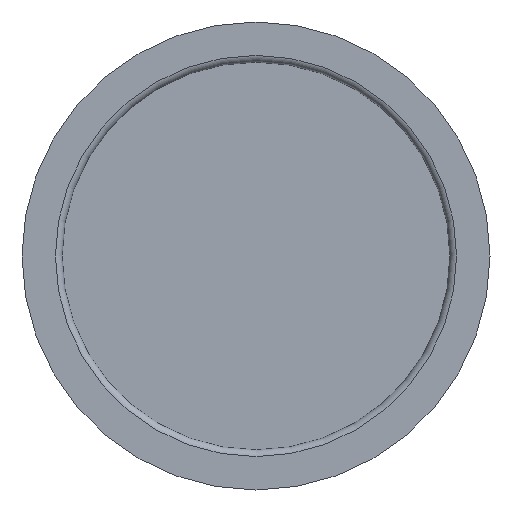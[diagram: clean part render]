
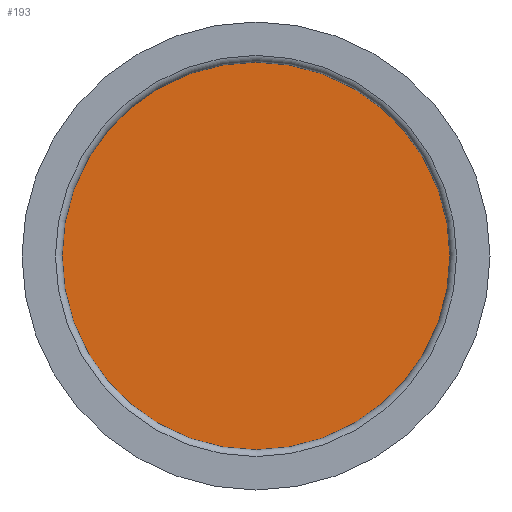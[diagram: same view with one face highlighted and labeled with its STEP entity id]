
A CAD part, front view. The second image highlights one B-rep face of the part: STEP entity #193.
In plain terms, the highlighted planar face has unit normal (0, -1, 0).
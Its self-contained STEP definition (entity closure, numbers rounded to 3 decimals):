
#193 = ADVANCED_FACE( '', ( #413 ), #414, .T. );
#413 = FACE_OUTER_BOUND( '', #651, .T. );
#414 = PLANE( '', #652 );
#651 = EDGE_LOOP( '', ( #1275 ) );
#652 = AXIS2_PLACEMENT_3D( '', #1276, #1277, #1278 );
#1275 = ORIENTED_EDGE( '', *, *, #1648, .T. );
#1276 = CARTESIAN_POINT( '', ( -15., 4.7, 0. ) );
#1277 = DIRECTION( '', ( 0., -1., 0. ) );
#1278 = DIRECTION( '', ( 1., 0., 0. ) );
#1648 = EDGE_CURVE( '', #1966, #1966, #1967, .T. );
#1966 = VERTEX_POINT( '', #2858 );
#1967 = CIRCLE( '', #2859, 15. );
#2858 = CARTESIAN_POINT( '', ( 15., 4.7, 0. ) );
#2859 = AXIS2_PLACEMENT_3D( '', #2973, #2974, #2975 );
#2973 = CARTESIAN_POINT( '', ( 0., 4.7, 0. ) );
#2974 = DIRECTION( '', ( 0., -1., 0. ) );
#2975 = DIRECTION( '', ( 1., 0., 0. ) );
